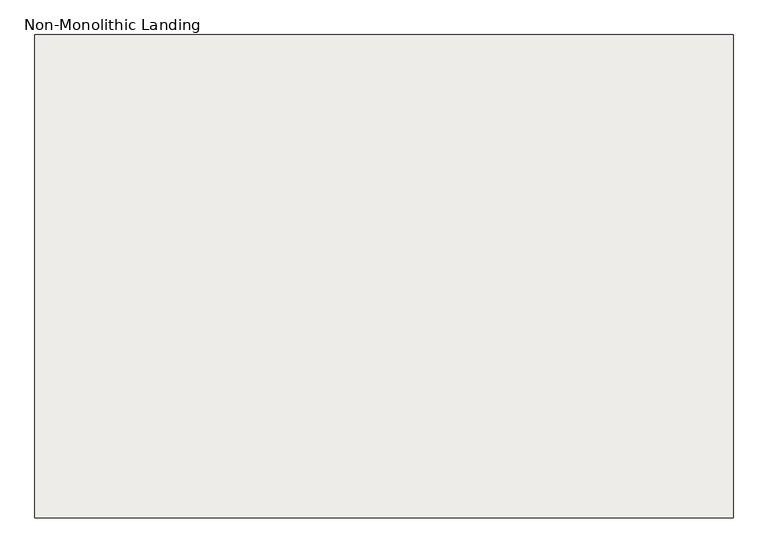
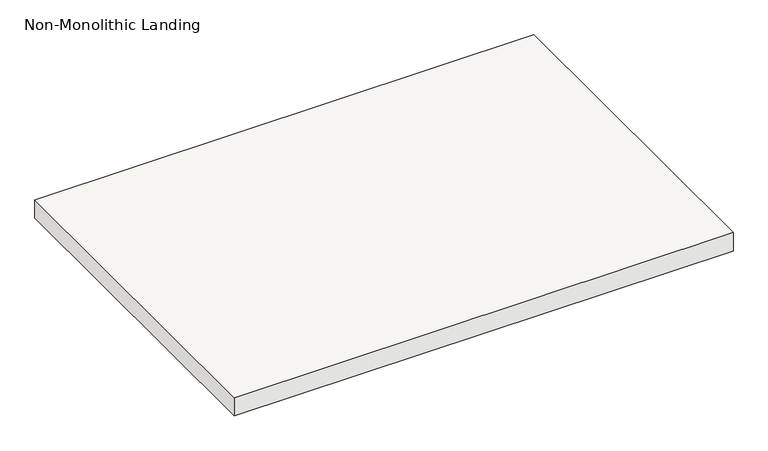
"""IFC4 building model written with IfcOpenShell, lengths in millimetres: slab geometry, Non-Monolithic Landing."""

from ifc_helpers import new_model, si_unit, frame, origin, place, context, project, spatial, polyline, outline, extrude, source, transform, mapped, element, save


def non_monolithic_landing_7542c6ef(model_context):
    return source(origin(), model_context, "Body", "SweptSolid", [
        extrude(outline(polyline([(112702.0882982, -1515.4986114), (114022.8882982, -1515.4986114), (114022.8882982, -2429.8986114), (112702.0882982, -2429.8986114), (112702.0882982, -1515.4986114)])), frame((0.0, 0.0, 2126.3428571), z_axis=(0.0, 0.0, 1.0), x_axis=(1.0, 0.0, 0.0)), (0.0, 0.0, 1.0), 50.8),
    ])


if __name__ == "__main__":
    model = new_model("IFC4")
    model_context = context("Model", 3, world=origin())
    ifc_project = project(units=[si_unit("LENGTHUNIT", "METRE", prefix="MILLI")], contexts=[model_context])
    site = spatial("IfcSite", under=ifc_project)
    building = spatial("IfcBuilding", under=site)
    placement = place(None, origin())
    non_monolithic_landing_shape = non_monolithic_landing_7542c6ef(model_context)
    element("IfcSlab", 1, ObjectType="Non-Monolithic Landing", at=placement, inside=building, context=model_context, shape_type="MappedRepresentation", body=[
        mapped(non_monolithic_landing_shape, transform((0.0, 0.0, 0.0), x_axis=(1.0, 0.0, 0.0), y_axis=(0.0, 1.0, 0.0), z_axis=(0.0, 0.0, 1.0))),
    ])
    save(model, "model.ifc")
